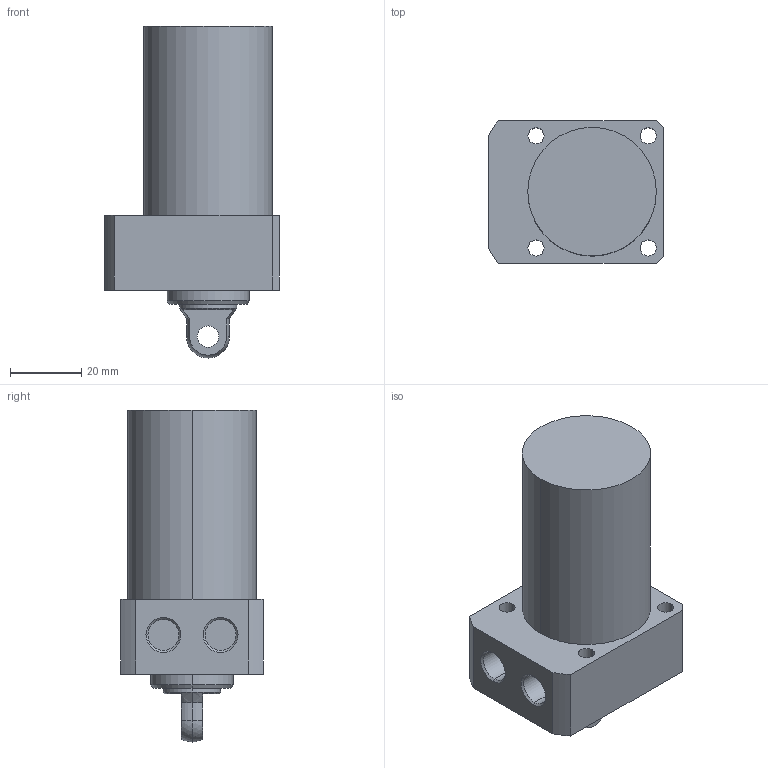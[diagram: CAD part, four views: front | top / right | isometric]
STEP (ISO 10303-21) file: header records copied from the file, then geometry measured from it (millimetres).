
FILE_DESCRIPTION (( 'STEP AP203' ), '1' );
FILE_NAME ('CLLR036-CP-45.STEP', '2017-05-10T09:01:50', ( '' ), ( '' ), 'SwSTEP 2.0', 'SolidWorks 2015', '' );
FILE_SCHEMA (( 'CONFIG_CONTROL_DESIGN' ));
Length unit declared in the file: millimetre
Products named in the file (1): CLLR036-CP-45
Bounding box: 49 x 40 x 93 mm (x, y, z)
Volume: 94492.6 mm3; surface area: 16018 mm2
Topology: 1 solids, 1 shells, 57 faces, 135 edges, 87 vertices
Faces by surface type: cylinder 29, plane 18, cone 8, sphere 2
Entity records: 1770 total; most frequent: DIRECTION 319, CARTESIAN_POINT 292, ORIENTED_EDGE 270, EDGE_CURVE 135, AXIS2_PLACEMENT_3D 130, VERTEX_POINT 87, EDGE_LOOP 74, CIRCLE 72
